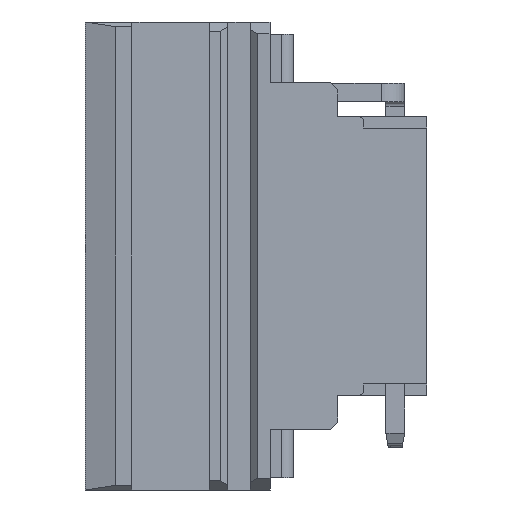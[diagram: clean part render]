
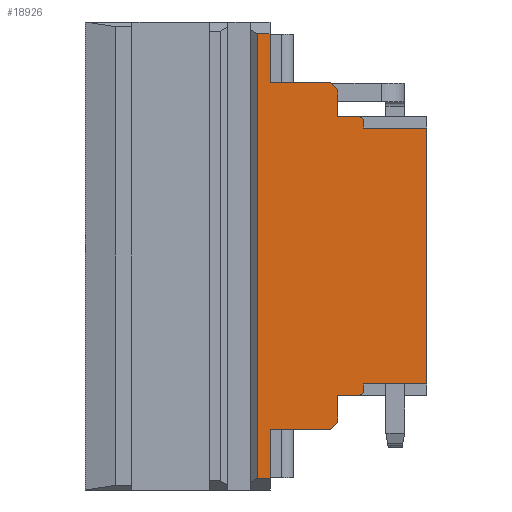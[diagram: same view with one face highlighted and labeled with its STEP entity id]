
A CAD part, left-side view. The second image highlights one B-rep face of the part: STEP entity #18926.
In plain terms, the highlighted planar face has unit normal (-1, 0, 0).
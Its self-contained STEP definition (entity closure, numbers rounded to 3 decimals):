
#2304=DIRECTION('',(0.,-1.,0.));
#2305=VECTOR('',#2304,2.7);
#2306=CARTESIAN_POINT('',(-8.3,-11.9,5.47));
#2307=LINE('',#2306,#2305);
#2316=DIRECTION('',(0.,0.,-1.));
#2317=VECTOR('',#2316,2.1);
#2318=CARTESIAN_POINT('',(-8.3,-7.9,9.5));
#2319=LINE('',#2318,#2317);
#2360=DIRECTION('',(0.,-1.,0.));
#2361=VECTOR('',#2360,0.55);
#2362=CARTESIAN_POINT('',(-8.3,-7.35,9.5));
#2363=LINE('',#2362,#2361);
#2364=DIRECTION('',(0.,0.707,0.707));
#2365=VECTOR('',#2364,0.424);
#2366=CARTESIAN_POINT('',(-8.3,-10.8,7.1));
#2367=LINE('',#2366,#2365);
#2368=CARTESIAN_POINT('',(-8.3,-11.7,5.75));
#2369=DIRECTION('',(-1.,0.,0.));
#2370=DIRECTION('',(0.,-1.,0.));
#2371=AXIS2_PLACEMENT_3D('',#2368,#2369,#2370);
#2373=DIRECTION('',(0.,-1.,0.));
#2374=VECTOR('',#2373,2.7);
#2375=CARTESIAN_POINT('',(-8.3,-11.9,-5.47));
#2376=LINE('',#2375,#2374);
#2377=CARTESIAN_POINT('',(-8.3,-11.7,-5.75));
#2378=DIRECTION('',(-1.,0.,0.));
#2379=DIRECTION('',(0.,0.,-1.));
#2380=AXIS2_PLACEMENT_3D('',#2377,#2378,#2379);
#2382=DIRECTION('',(0.,-0.707,0.707));
#2383=VECTOR('',#2382,0.424);
#2384=CARTESIAN_POINT('',(-8.3,-10.5,-7.4));
#2385=LINE('',#2384,#2383);
#2386=DIRECTION('',(0.,0.,1.));
#2387=VECTOR('',#2386,2.1);
#2388=CARTESIAN_POINT('',(-8.3,-7.9,-9.5));
#2389=LINE('',#2388,#2387);
#2394=DIRECTION('',(0.,0.,1.));
#2395=VECTOR('',#2394,19.);
#2396=CARTESIAN_POINT('',(-8.3,-7.35,-9.5));
#2397=LINE('',#2396,#2395);
#2414=DIRECTION('',(0.,1.,0.));
#2415=VECTOR('',#2414,0.55);
#2416=CARTESIAN_POINT('',(-8.3,-7.9,-9.5));
#2417=LINE('',#2416,#2415);
#3357=DIRECTION('',(0.,0.,-1.));
#3358=VECTOR('',#3357,10.94);
#3359=CARTESIAN_POINT('',(-8.3,-14.6,5.47));
#3360=LINE('',#3359,#3358);
#9937=DIRECTION('',(0.,1.,0.));
#9938=VECTOR('',#9937,2.6);
#9939=CARTESIAN_POINT('',(-8.3,-10.5,-7.4));
#9940=LINE('',#9939,#9938);
#9961=DIRECTION('',(0.,0.,-1.));
#9962=VECTOR('',#9961,1.15);
#9963=CARTESIAN_POINT('',(-8.3,-10.8,-5.95));
#9964=LINE('',#9963,#9962);
#9969=DIRECTION('',(0.,1.,0.));
#9970=VECTOR('',#9969,0.9);
#9971=CARTESIAN_POINT('',(-8.3,-11.7,-5.95));
#9972=LINE('',#9971,#9970);
#9989=DIRECTION('',(0.,0.,-1.));
#9990=VECTOR('',#9989,0.28);
#9991=CARTESIAN_POINT('',(-8.3,-11.9,-5.47));
#9992=LINE('',#9991,#9990);
#10173=DIRECTION('',(0.,-1.,0.));
#10174=VECTOR('',#10173,2.6);
#10175=CARTESIAN_POINT('',(-8.3,-7.9,7.4));
#10176=LINE('',#10175,#10174);
#10198=DIRECTION('',(0.,0.,-1.));
#10199=VECTOR('',#10198,1.15);
#10200=CARTESIAN_POINT('',(-8.3,-10.8,7.1));
#10201=LINE('',#10200,#10199);
#10214=DIRECTION('',(0.,-1.,0.));
#10215=VECTOR('',#10214,0.9);
#10216=CARTESIAN_POINT('',(-8.3,-10.8,5.95));
#10217=LINE('',#10216,#10215);
#10230=DIRECTION('',(0.,0.,-1.));
#10231=VECTOR('',#10230,0.28);
#10232=CARTESIAN_POINT('',(-8.3,-11.9,5.75));
#10233=LINE('',#10232,#10231);
#11979=CARTESIAN_POINT('',(-8.3,-7.9,-9.5));
#11980=VERTEX_POINT('',#11979);
#11981=CARTESIAN_POINT('',(-8.3,-7.9,-7.4));
#11982=VERTEX_POINT('',#11981);
#12283=CARTESIAN_POINT('',(-8.3,-11.9,-5.47));
#12284=VERTEX_POINT('',#12283);
#12285=CARTESIAN_POINT('',(-8.3,-14.6,-5.47));
#12286=VERTEX_POINT('',#12285);
#12301=CARTESIAN_POINT('',(-8.3,-10.5,-7.4));
#12302=CARTESIAN_POINT('',(-8.3,-10.8,-7.1));
#12303=VERTEX_POINT('',#12301);
#12304=VERTEX_POINT('',#12302);
#12305=CARTESIAN_POINT('',(-8.3,-7.35,9.5));
#12306=CARTESIAN_POINT('',(-8.3,-7.9,9.5));
#12307=VERTEX_POINT('',#12305);
#12308=VERTEX_POINT('',#12306);
#12309=CARTESIAN_POINT('',(-8.3,-7.9,7.4));
#12310=VERTEX_POINT('',#12309);
#12311=CARTESIAN_POINT('',(-8.3,-10.5,7.4));
#12312=VERTEX_POINT('',#12311);
#12313=CARTESIAN_POINT('',(-8.3,-10.8,7.1));
#12314=VERTEX_POINT('',#12313);
#12315=CARTESIAN_POINT('',(-8.3,-10.8,5.95));
#12316=VERTEX_POINT('',#12315);
#12317=CARTESIAN_POINT('',(-8.3,-11.7,5.95));
#12318=VERTEX_POINT('',#12317);
#12319=CARTESIAN_POINT('',(-8.3,-11.9,5.75));
#12320=VERTEX_POINT('',#12319);
#12321=CARTESIAN_POINT('',(-8.3,-11.9,5.47));
#12322=VERTEX_POINT('',#12321);
#12323=CARTESIAN_POINT('',(-8.3,-14.6,5.47));
#12324=VERTEX_POINT('',#12323);
#12325=CARTESIAN_POINT('',(-8.3,-11.9,-5.75));
#12326=VERTEX_POINT('',#12325);
#12327=CARTESIAN_POINT('',(-8.3,-11.7,-5.95));
#12328=VERTEX_POINT('',#12327);
#12329=CARTESIAN_POINT('',(-8.3,-10.8,-5.95));
#12330=VERTEX_POINT('',#12329);
#12331=CARTESIAN_POINT('',(-8.3,-7.35,-9.5));
#12332=VERTEX_POINT('',#12331);
#18882=CARTESIAN_POINT('',(-8.3,-7.35,-10.));
#18883=DIRECTION('',(-1.,0.,0.));
#18884=DIRECTION('',(0.,-1.,0.));
#18885=AXIS2_PLACEMENT_3D('',#18882,#18883,#18884);
#18886=PLANE('',#18885);
#18888=ORIENTED_EDGE('',*,*,#18887,.T.);
#18889=ORIENTED_EDGE('',*,*,#18871,.T.);
#18890=ORIENTED_EDGE('',*,*,#18809,.T.);
#18892=ORIENTED_EDGE('',*,*,#18891,.T.);
#18894=ORIENTED_EDGE('',*,*,#18893,.F.);
#18896=ORIENTED_EDGE('',*,*,#18895,.T.);
#18898=ORIENTED_EDGE('',*,*,#18897,.T.);
#18900=ORIENTED_EDGE('',*,*,#18899,.F.);
#18902=ORIENTED_EDGE('',*,*,#18901,.T.);
#18903=ORIENTED_EDGE('',*,*,#18784,.T.);
#18905=ORIENTED_EDGE('',*,*,#18904,.T.);
#18907=ORIENTED_EDGE('',*,*,#18906,.F.);
#18909=ORIENTED_EDGE('',*,*,#18908,.T.);
#18911=ORIENTED_EDGE('',*,*,#18910,.F.);
#18913=ORIENTED_EDGE('',*,*,#18912,.T.);
#18915=ORIENTED_EDGE('',*,*,#18914,.T.);
#18917=ORIENTED_EDGE('',*,*,#18916,.F.);
#18919=ORIENTED_EDGE('',*,*,#18918,.T.);
#18921=ORIENTED_EDGE('',*,*,#18920,.F.);
#18923=ORIENTED_EDGE('',*,*,#18922,.T.);
#18924=EDGE_LOOP('',(#18888,#18889,#18890,#18892,#18894,#18896,#18898,#18900,
#18902,#18903,#18905,#18907,#18909,#18911,#18913,#18915,#18917,#18919,#18921,
#18923));
#18925=FACE_OUTER_BOUND('',#18924,.F.);
#18926=ADVANCED_FACE('',(#18925),#18886,.T.);
#2372=CIRCLE('',#2371,0.2);
#2381=CIRCLE('',#2380,0.2);
#18784=EDGE_CURVE('',#12322,#12324,#2307,.T.);
#18809=EDGE_CURVE('',#12308,#12310,#2319,.T.);
#18871=EDGE_CURVE('',#12307,#12308,#2363,.T.);
#18887=EDGE_CURVE('',#12332,#12307,#2397,.T.);
#18891=EDGE_CURVE('',#12310,#12312,#10176,.T.);
#18893=EDGE_CURVE('',#12314,#12312,#2367,.T.);
#18895=EDGE_CURVE('',#12314,#12316,#10201,.T.);
#18897=EDGE_CURVE('',#12316,#12318,#10217,.T.);
#18899=EDGE_CURVE('',#12320,#12318,#2372,.T.);
#18901=EDGE_CURVE('',#12320,#12322,#10233,.T.);
#18904=EDGE_CURVE('',#12324,#12286,#3360,.T.);
#18906=EDGE_CURVE('',#12284,#12286,#2376,.T.);
#18908=EDGE_CURVE('',#12284,#12326,#9992,.T.);
#18910=EDGE_CURVE('',#12328,#12326,#2381,.T.);
#18912=EDGE_CURVE('',#12328,#12330,#9972,.T.);
#18914=EDGE_CURVE('',#12330,#12304,#9964,.T.);
#18916=EDGE_CURVE('',#12303,#12304,#2385,.T.);
#18918=EDGE_CURVE('',#12303,#11982,#9940,.T.);
#18920=EDGE_CURVE('',#11980,#11982,#2389,.T.);
#18922=EDGE_CURVE('',#11980,#12332,#2417,.T.);
